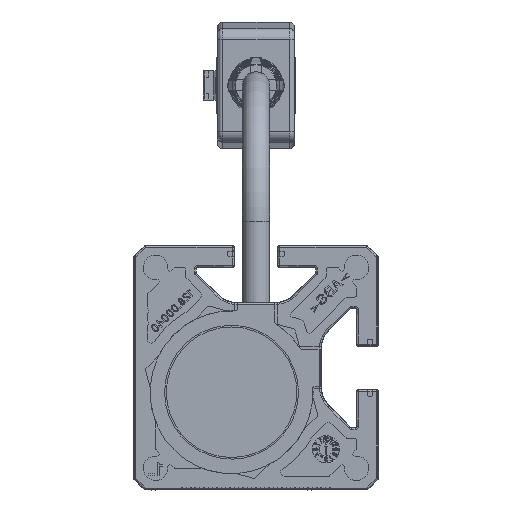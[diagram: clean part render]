
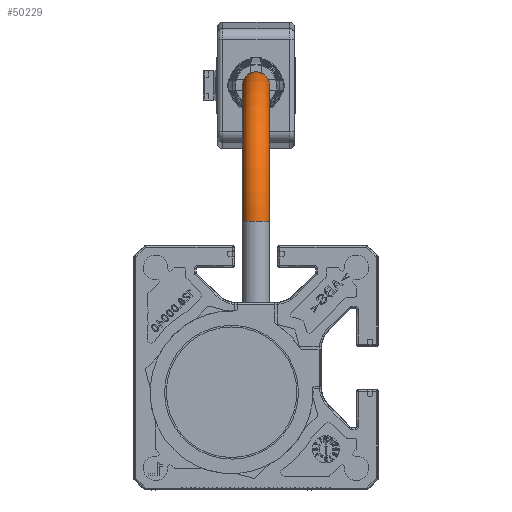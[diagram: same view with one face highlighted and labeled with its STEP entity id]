
A CAD part, front view. The second image highlights one B-rep face of the part: STEP entity #50229.
In plain terms, the highlighted toroidal (fillet/blend) face has major radius 25 mm and minor radius 2.5 mm.
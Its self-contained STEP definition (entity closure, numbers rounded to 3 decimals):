
#12286=TOROIDAL_SURFACE('',#57830,25.,2.5);
#13726=CIRCLE('',#57831,2.5);
#13727=CIRCLE('',#57832,2.5);
#26746=ORIENTED_EDGE('',*,*,#35338,.F.);
#26747=ORIENTED_EDGE('',*,*,#35339,.T.);
#35338=EDGE_CURVE('',#40636,#40636,#13726,.T.);
#35339=EDGE_CURVE('',#40637,#40637,#13727,.T.);
#40636=VERTEX_POINT('',#90065);
#40637=VERTEX_POINT('',#90067);
#44585=EDGE_LOOP('',(#26746));
#44586=EDGE_LOOP('',(#26747));
#47457=FACE_BOUND('',#44585,.T.);
#47458=FACE_BOUND('',#44586,.T.);
#50229=ADVANCED_FACE('',(#47457,#47458),#12286,.T.);
#57830=AXIS2_PLACEMENT_3D('',#90063,#70147,#70148);
#57831=AXIS2_PLACEMENT_3D('',#90064,#70149,#70150);
#57832=AXIS2_PLACEMENT_3D('',#90066,#70151,#70152);
#70147=DIRECTION('',(0.,0.,-1.));
#70148=DIRECTION('',(-1.,0.,0.));
#70149=DIRECTION('',(0.,-1.,0.));
#70150=DIRECTION('',(0.,0.,-1.));
#70151=DIRECTION('',(-1.,0.,0.));
#70152=DIRECTION('',(0.,0.,-1.));
#90063=CARTESIAN_POINT('',(25.,100.,0.));
#90064=CARTESIAN_POINT('',(0.,100.,0.));
#90065=CARTESIAN_POINT('',(0.,100.,-2.5));
#90066=CARTESIAN_POINT('',(25.,125.,0.));
#90067=CARTESIAN_POINT('',(25.,125.,-2.5));
